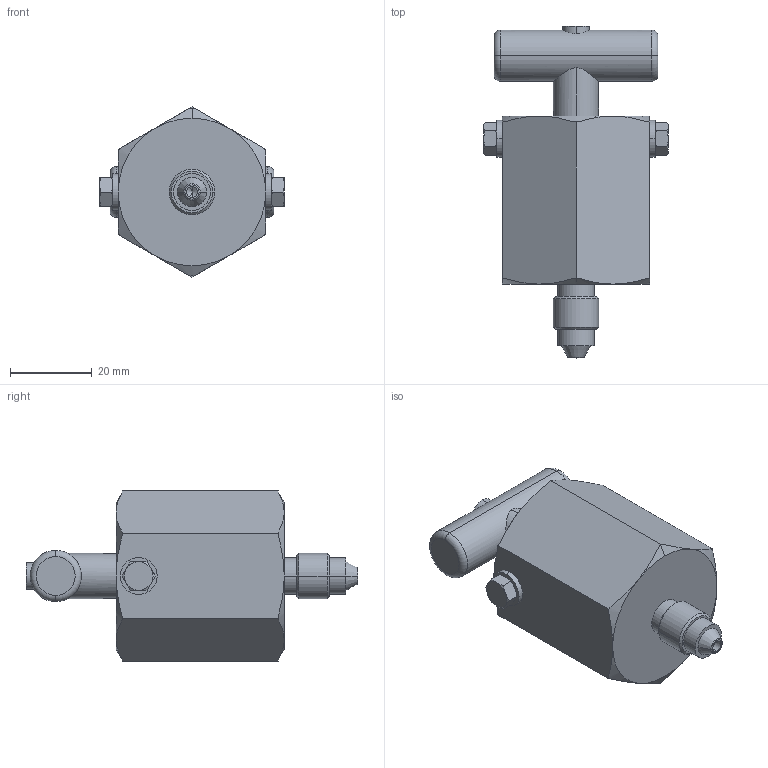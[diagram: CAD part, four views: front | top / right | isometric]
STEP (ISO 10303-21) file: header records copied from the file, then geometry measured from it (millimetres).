
FILE_DESCRIPTION (( 'STEP AP203' ), '1' );
FILE_NAME ('BLV20VS04-00-00.STEP', '2022-03-31T10:00:24', ( '' ), ( '' ), 'SwSTEP 2.0', 'SolidWorks 2020', '' );
FILE_SCHEMA (( 'CONFIG_CONTROL_DESIGN' ));
Length unit declared in the file: millimetre
Products named in the file (1): BLV20VS04-00-00
Bounding box: 45 x 81 x 41.57 mm (x, y, z)
Volume: 52321 mm3; surface area: 10658.9 mm2
Topology: 1 solids, 1 shells, 126 faces, 284 edges, 170 vertices
Faces by surface type: cone 54, plane 44, cylinder 22, torus 6
Entity records: 3865 total; most frequent: CARTESIAN_POINT 1051, DIRECTION 580, ORIENTED_EDGE 560, EDGE_CURVE 280, AXIS2_PLACEMENT_3D 249, VERTEX_POINT 170, EDGE_LOOP 140, FACE_OUTER_BOUND 126
